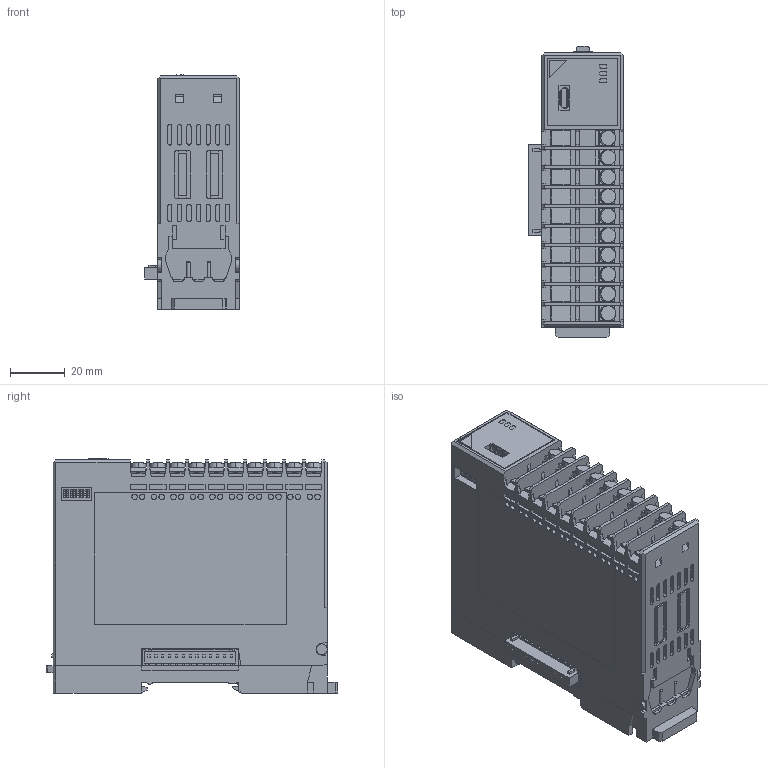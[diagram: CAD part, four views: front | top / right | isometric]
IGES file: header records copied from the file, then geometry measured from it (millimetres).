
Start section: SolidWorks IGES file using analytic representation for surfaces
Global section: file name: D:\KK\CAD_DATA\Q\Q僔儕乕僘\QAM2\D25-027\HP_3D\QAM2-2T_IGES\QAM2-2T_260721.IGS; native system: SolidWorks 2025; preprocessor: SolidWorks 2025; author: kawahara; date: 260722.100200; units: millimetre
Bounding box: 34.6 x 106.3 x 85.46 mm (x, y, z)
Surface area: 40894 mm2 (no closed solid volume)
Topology: 0 solids, 0 shells, 1714 faces, 13998 edges, 13996 vertices
Faces by surface type: bspline 1397, revolution 317
